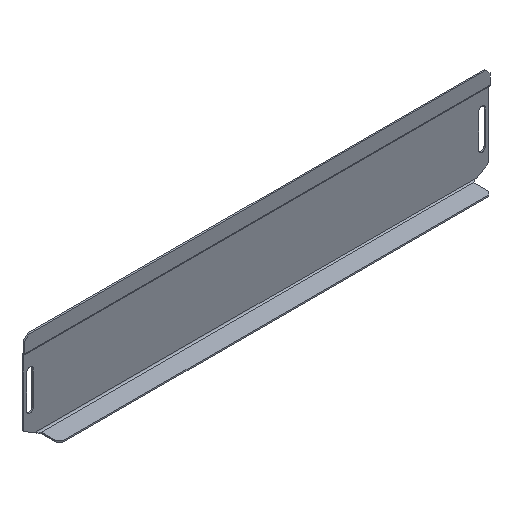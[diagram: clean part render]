
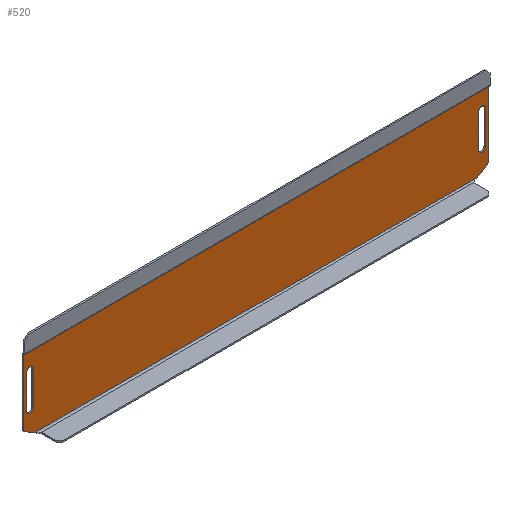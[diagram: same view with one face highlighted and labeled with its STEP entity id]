
A CAD part, isometric view. The second image highlights one B-rep face of the part: STEP entity #520.
In plain terms, the highlighted planar face has unit normal (0, -1, 0).
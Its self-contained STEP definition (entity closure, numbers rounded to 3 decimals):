
#8 = DIRECTION ( 'NONE',  ( 0., 0., -1. ) ) ;
#16 = VECTOR ( 'NONE', #1175, 1000. ) ;
#18 = ORIENTED_EDGE ( 'NONE', *, *, #906, .F. ) ;
#31 = FACE_OUTER_BOUND ( 'NONE', #844, .T. ) ;
#33 = AXIS2_PLACEMENT_3D ( 'NONE', #608, #201, #694 ) ;
#55 = VERTEX_POINT ( 'NONE', #807 ) ;
#61 = LINE ( 'NONE', #1124, #107 ) ;
#80 = CARTESIAN_POINT ( 'NONE',  ( 207.25, 0., 50.6 ) ) ;
#82 = DIRECTION ( 'NONE',  ( 0., -1., 0. ) ) ;
#87 = EDGE_CURVE ( 'NONE', #479, #346, #922, .T. ) ;
#88 = CARTESIAN_POINT ( 'NONE',  ( 204.25, 0., 53.6 ) ) ;
#92 = DIRECTION ( 'NONE',  ( 0., 0., -1. ) ) ;
#106 = ORIENTED_EDGE ( 'NONE', *, *, #1168, .T. ) ;
#107 = VECTOR ( 'NONE', #1244, 1000. ) ;
#125 = EDGE_CURVE ( 'NONE', #486, #888, #243, .T. ) ;
#141 = VERTEX_POINT ( 'NONE', #88 ) ;
#169 = CARTESIAN_POINT ( 'NONE',  ( 207.25, 0., 50.6 ) ) ;
#175 = CARTESIAN_POINT ( 'NONE',  ( -207.25, 0., 20.6 ) ) ;
#189 = CARTESIAN_POINT ( 'NONE',  ( -204.25, 0., 50.6 ) ) ;
#192 = AXIS2_PLACEMENT_3D ( 'NONE', #496, #798, #970 ) ;
#199 = EDGE_CURVE ( 'NONE', #888, #479, #686, .T. ) ;
#200 = ORIENTED_EDGE ( 'NONE', *, *, #1231, .T. ) ;
#201 = DIRECTION ( 'NONE',  ( 0., -1., 0. ) ) ;
#218 = AXIS2_PLACEMENT_3D ( 'NONE', #1116, #1119, #510 ) ;
#225 = FACE_BOUND ( 'NONE', #904, .T. ) ;
#226 = EDGE_CURVE ( 'NONE', #611, #695, #544, .T. ) ;
#229 = DIRECTION ( 'NONE',  ( 0.862, 0., 0.507 ) ) ;
#243 = CIRCLE ( 'NONE', #33, 3. ) ;
#254 = AXIS2_PLACEMENT_3D ( 'NONE', #189, #1213, #504 ) ;
#260 = LINE ( 'NONE', #870, #636 ) ;
#272 = CARTESIAN_POINT ( 'NONE',  ( 199.781, 0., 0. ) ) ;
#280 = ORIENTED_EDGE ( 'NONE', *, *, #199, .F. ) ;
#297 = LINE ( 'NONE', #505, #739 ) ;
#320 = DIRECTION ( 'NONE',  ( 0., 0., 1. ) ) ;
#327 = CIRCLE ( 'NONE', #933, 3. ) ;
#333 = EDGE_CURVE ( 'NONE', #611, #372, #1249, .T. ) ;
#337 = VECTOR ( 'NONE', #1044, 1000. ) ;
#346 = VERTEX_POINT ( 'NONE', #568 ) ;
#358 = DIRECTION ( 'NONE',  ( -1., 0., 0. ) ) ;
#372 = VERTEX_POINT ( 'NONE', #381 ) ;
#379 = ORIENTED_EDGE ( 'NONE', *, *, #819, .T. ) ;
#381 = CARTESIAN_POINT ( 'NONE',  ( 210.25, 0., 6.155 ) ) ;
#382 = VERTEX_POINT ( 'NONE', #80 ) ;
#387 = CARTESIAN_POINT ( 'NONE',  ( -210.25, 0., 66.168 ) ) ;
#439 = ORIENTED_EDGE ( 'NONE', *, *, #333, .F. ) ;
#452 = EDGE_CURVE ( 'NONE', #846, #1081, #1002, .T. ) ;
#453 = DIRECTION ( 'NONE',  ( 0., 0., 1. ) ) ;
#454 = VECTOR ( 'NONE', #229, 1000. ) ;
#457 = CARTESIAN_POINT ( 'NONE',  ( 210.25, 0., 81.2 ) ) ;
#469 = CARTESIAN_POINT ( 'NONE',  ( -201.25, 0., 50.6 ) ) ;
#479 = VERTEX_POINT ( 'NONE', #469 ) ;
#486 = VERTEX_POINT ( 'NONE', #175 ) ;
#496 = CARTESIAN_POINT ( 'NONE',  ( -204.25, 0., 50.6 ) ) ;
#501 = ORIENTED_EDGE ( 'NONE', *, *, #1033, .T. ) ;
#504 = DIRECTION ( 'NONE',  ( 0., 0., 1. ) ) ;
#505 = CARTESIAN_POINT ( 'NONE',  ( -210.25, 0., 81.2 ) ) ;
#506 = CIRCLE ( 'NONE', #192, 3. ) ;
#510 = DIRECTION ( 'NONE',  ( 0., 0., 1. ) ) ;
#514 = DIRECTION ( 'NONE',  ( 0., 0., 1. ) ) ;
#520 = ADVANCED_FACE ( 'NONE', ( #225, #563, #31 ), #1087, .T. ) ;
#532 = AXIS2_PLACEMENT_3D ( 'NONE', #1152, #1065, #1265 ) ;
#535 = ORIENTED_EDGE ( 'NONE', *, *, #625, .T. ) ;
#544 = LINE ( 'NONE', #939, #610 ) ;
#546 = DIRECTION ( 'NONE',  ( 0., 1., 0. ) ) ;
#547 = EDGE_LOOP ( 'NONE', ( #18, #668, #1028, #280, #1099 ) ) ;
#554 = CARTESIAN_POINT ( 'NONE',  ( 199.781, 0., 0. ) ) ;
#563 = FACE_BOUND ( 'NONE', #547, .T. ) ;
#568 = CARTESIAN_POINT ( 'NONE',  ( -204.25, 0., 53.6 ) ) ;
#578 = CARTESIAN_POINT ( 'NONE',  ( 210.25, 0., 0. ) ) ;
#580 = VECTOR ( 'NONE', #514, 1000. ) ;
#587 = AXIS2_PLACEMENT_3D ( 'NONE', #578, #82, #92 ) ;
#593 = VECTOR ( 'NONE', #8, 1000. ) ;
#608 = CARTESIAN_POINT ( 'NONE',  ( -204.25, 0., 20.6 ) ) ;
#610 = VECTOR ( 'NONE', #358, 1000. ) ;
#611 = VERTEX_POINT ( 'NONE', #651 ) ;
#618 = VERTEX_POINT ( 'NONE', #660 ) ;
#625 = EDGE_CURVE ( 'NONE', #886, #141, #327, .T. ) ;
#636 = VECTOR ( 'NONE', #696, 1000. ) ;
#643 = CARTESIAN_POINT ( 'NONE',  ( 204.25, 0., 50.6 ) ) ;
#651 = CARTESIAN_POINT ( 'NONE',  ( 210.25, 0., 66.168 ) ) ;
#660 = CARTESIAN_POINT ( 'NONE',  ( 207.25, 0., 20.6 ) ) ;
#662 = ORIENTED_EDGE ( 'NONE', *, *, #452, .F. ) ;
#668 = ORIENTED_EDGE ( 'NONE', *, *, #955, .F. ) ;
#678 = ORIENTED_EDGE ( 'NONE', *, *, #935, .T. ) ;
#686 = LINE ( 'NONE', #792, #580 ) ;
#694 = DIRECTION ( 'NONE',  ( 0., 0., 1. ) ) ;
#695 = VERTEX_POINT ( 'NONE', #387 ) ;
#696 = DIRECTION ( 'NONE',  ( 0., 0., -1. ) ) ;
#715 = ORIENTED_EDGE ( 'NONE', *, *, #226, .T. ) ;
#729 = CIRCLE ( 'NONE', #532, 3. ) ;
#739 = VECTOR ( 'NONE', #320, 1000. ) ;
#770 = DIRECTION ( 'NONE',  ( -1., 0., 0. ) ) ;
#772 = CARTESIAN_POINT ( 'NONE',  ( -201.25, 0., 20.6 ) ) ;
#792 = CARTESIAN_POINT ( 'NONE',  ( -201.25, 0., 50.6 ) ) ;
#798 = DIRECTION ( 'NONE',  ( 0., -1., 0. ) ) ;
#807 = CARTESIAN_POINT ( 'NONE',  ( -210.25, 0., 6.155 ) ) ;
#819 = EDGE_CURVE ( 'NONE', #141, #382, #729, .T. ) ;
#822 = CARTESIAN_POINT ( 'NONE',  ( 199.781, 0., 0. ) ) ;
#844 = EDGE_LOOP ( 'NONE', ( #662, #200, #439, #715, #1149, #1220 ) ) ;
#846 = VERTEX_POINT ( 'NONE', #554 ) ;
#858 = LINE ( 'NONE', #169, #593 ) ;
#870 = CARTESIAN_POINT ( 'NONE',  ( -207.25, 0., 50.6 ) ) ;
#886 = VERTEX_POINT ( 'NONE', #1073 ) ;
#888 = VERTEX_POINT ( 'NONE', #772 ) ;
#904 = EDGE_LOOP ( 'NONE', ( #535, #379, #678, #501, #106 ) ) ;
#906 = EDGE_CURVE ( 'NONE', #976, #486, #260, .T. ) ;
#922 = CIRCLE ( 'NONE', #254, 3. ) ;
#933 = AXIS2_PLACEMENT_3D ( 'NONE', #643, #546, #453 ) ;
#935 = EDGE_CURVE ( 'NONE', #382, #618, #858, .T. ) ;
#939 = CARTESIAN_POINT ( 'NONE',  ( 210.25, 0., 66.168 ) ) ;
#955 = EDGE_CURVE ( 'NONE', #346, #976, #506, .T. ) ;
#970 = DIRECTION ( 'NONE',  ( 0., 0., 1. ) ) ;
#976 = VERTEX_POINT ( 'NONE', #1205 ) ;
#995 = LINE ( 'NONE', #822, #454 ) ;
#1002 = LINE ( 'NONE', #272, #1034 ) ;
#1023 = CARTESIAN_POINT ( 'NONE',  ( 201.25, 0., 20.6 ) ) ;
#1028 = ORIENTED_EDGE ( 'NONE', *, *, #87, .F. ) ;
#1031 = VERTEX_POINT ( 'NONE', #1023 ) ;
#1033 = EDGE_CURVE ( 'NONE', #618, #1031, #1104, .T. ) ;
#1034 = VECTOR ( 'NONE', #770, 1000. ) ;
#1044 = DIRECTION ( 'NONE',  ( 0.862, 0., -0.507 ) ) ;
#1065 = DIRECTION ( 'NONE',  ( 0., 1., 0. ) ) ;
#1072 = EDGE_CURVE ( 'NONE', #55, #695, #297, .T. ) ;
#1073 = CARTESIAN_POINT ( 'NONE',  ( 201.25, 0., 50.6 ) ) ;
#1081 = VERTEX_POINT ( 'NONE', #1226 ) ;
#1087 = PLANE ( 'NONE',  #587 ) ;
#1099 = ORIENTED_EDGE ( 'NONE', *, *, #125, .F. ) ;
#1104 = CIRCLE ( 'NONE', #218, 3. ) ;
#1116 = CARTESIAN_POINT ( 'NONE',  ( 204.25, 0., 20.6 ) ) ;
#1119 = DIRECTION ( 'NONE',  ( 0., 1., 0. ) ) ;
#1124 = CARTESIAN_POINT ( 'NONE',  ( 201.25, 0., 50.6 ) ) ;
#1149 = ORIENTED_EDGE ( 'NONE', *, *, #1072, .F. ) ;
#1152 = CARTESIAN_POINT ( 'NONE',  ( 204.25, 0., 50.6 ) ) ;
#1168 = EDGE_CURVE ( 'NONE', #1031, #886, #61, .T. ) ;
#1174 = EDGE_CURVE ( 'NONE', #55, #1081, #1208, .T. ) ;
#1175 = DIRECTION ( 'NONE',  ( 0., 0., -1. ) ) ;
#1205 = CARTESIAN_POINT ( 'NONE',  ( -207.25, 0., 50.6 ) ) ;
#1208 = LINE ( 'NONE', #1240, #337 ) ;
#1213 = DIRECTION ( 'NONE',  ( 0., -1., 0. ) ) ;
#1220 = ORIENTED_EDGE ( 'NONE', *, *, #1174, .T. ) ;
#1226 = CARTESIAN_POINT ( 'NONE',  ( -199.781, 0., 0. ) ) ;
#1231 = EDGE_CURVE ( 'NONE', #846, #372, #995, .T. ) ;
#1240 = CARTESIAN_POINT ( 'NONE',  ( -199.781, 0., 0. ) ) ;
#1244 = DIRECTION ( 'NONE',  ( 0., 0., 1. ) ) ;
#1249 = LINE ( 'NONE', #457, #16 ) ;
#1265 = DIRECTION ( 'NONE',  ( 0., 0., 1. ) ) ;
